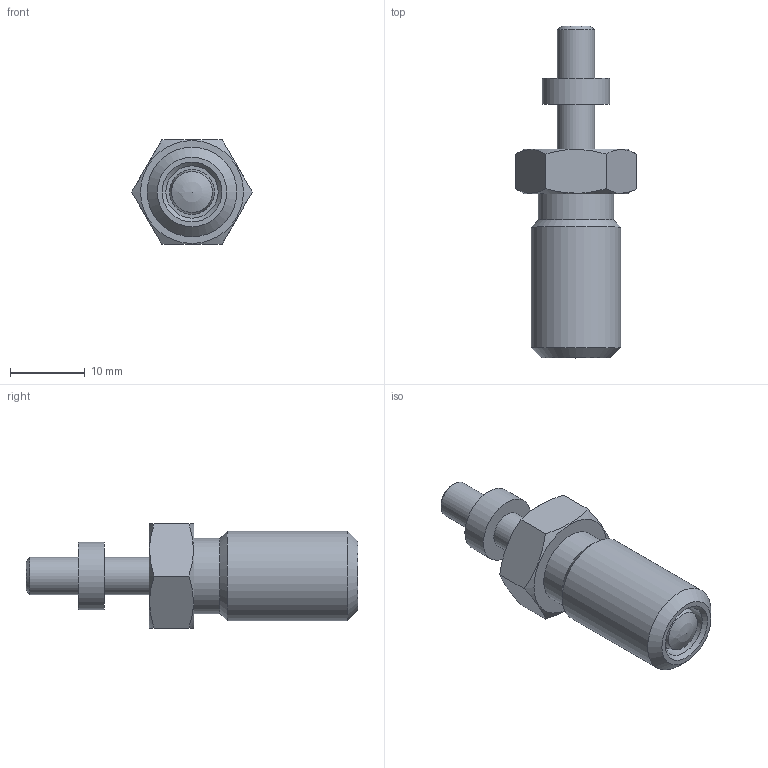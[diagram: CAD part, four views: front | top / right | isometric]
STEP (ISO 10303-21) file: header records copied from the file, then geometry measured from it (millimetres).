
FILE_DESCRIPTION( ( 'STEP AP203' ), '1' );
FILE_NAME( 'C:/Temp/Ganter_Step_05_03_2020/data/3_1/gn817/gn817_ni-rastbolzen/Stainless steel-Indexing plunger GN 817-6-6-G-NI (activated).stp', '2020-03-12T08:59:48', ( 'License CC BY-ND 4.0' ), ( 'CADENAS' ), ' ', 'PARTsolutions', ' ' );
FILE_SCHEMA( ( 'CONFIG_CONTROL_DESIGN' ) );
Length unit declared in the file: millimetre
Products named in the file (4): Stainless steel-Indexing plunger GN 817-6-6-G-NI (activated); _Stainless steel-Indexing plunger GN 817-6-6-G-NI (activated)-d2; _Stainless steel-Indexing plunger GN 817-6-6-B-NI-2; _Stainless Steel-Indexing plunger GN 817-6-6-G-NI-6
Assembly tree (3 placements, depth 2):
  Stainless steel-Indexing plunger GN 817-6-6-G-NI (activated)
    _Stainless steel-Indexing plunger GN 817-6-6-G-NI (activated)-d2
    _Stainless steel-Indexing plunger GN 817-6-6-B-NI-2
    _Stainless Steel-Indexing plunger GN 817-6-6-G-NI-6
Bounding box: 16.17 x 44.5 x 14 mm (x, y, z)
Volume: 3727.1 mm3; surface area: 2987.5 mm2
Topology: 2 solids, 2 shells, 35 faces, 67 edges, 42 vertices
Faces by surface type: plane 15, cylinder 9, cone 8, torus 2, sphere 1
Full cylindrical faces by diameter (mm): 5 x3, 6 x1, 7 x2, 9 x1, 10.1 x1, 12 x1
Entity records: 1011 total; most frequent: CARTESIAN_POINT 249, DIRECTION 138, ORIENTED_EDGE 90, AXIS2_PLACEMENT_3D 66, EDGE_LOOP 62, FACE_OUTER_BOUND 46, EDGE_CURVE 45, VERTEX_POINT 40
